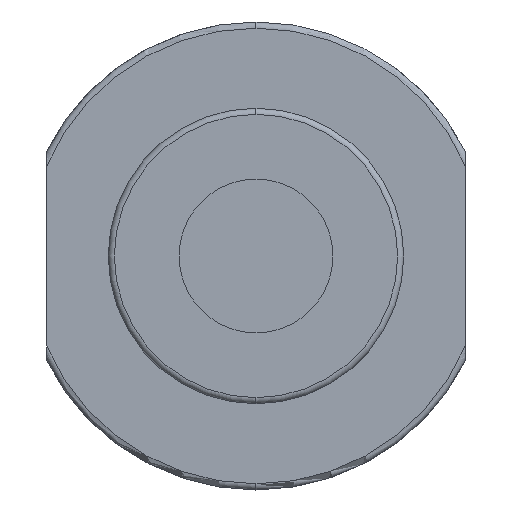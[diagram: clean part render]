
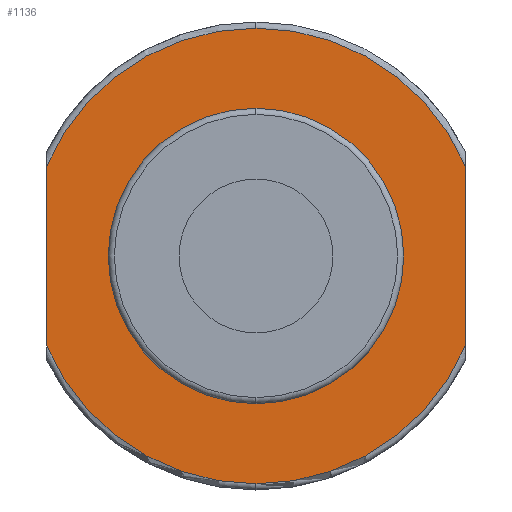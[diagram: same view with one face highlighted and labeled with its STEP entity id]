
A CAD part, left-side view. The second image highlights one B-rep face of the part: STEP entity #1136.
In plain terms, the highlighted planar face has unit normal (-1, 0, 0).
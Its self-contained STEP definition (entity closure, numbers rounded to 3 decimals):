
#14 = VERTEX_POINT ( 'NONE', #1375 ) ;
#36 = EDGE_CURVE ( 'NONE', #14, #1832, #767, .T. ) ;
#96 = ORIENTED_EDGE ( 'NONE', *, *, #1666, .T. ) ;
#104 = CIRCLE ( 'NONE', #1697, 12. ) ;
#114 = DIRECTION ( 'NONE',  ( 1., 0., 0. ) ) ;
#147 = AXIS2_PLACEMENT_3D ( 'NONE', #1527, #915, #650 ) ;
#148 = VECTOR ( 'NONE', #746, 1000. ) ;
#194 = CARTESIAN_POINT ( 'NONE',  ( 25.5, 0., 18.5 ) ) ;
#200 = EDGE_CURVE ( 'NONE', #1600, #565, #282, .T. ) ;
#226 = ORIENTED_EDGE ( 'NONE', *, *, #1286, .F. ) ;
#258 = CIRCLE ( 'NONE', #147, 12. ) ;
#270 = ORIENTED_EDGE ( 'NONE', *, *, #1165, .T. ) ;
#282 = CIRCLE ( 'NONE', #1710, 18.5 ) ;
#334 = FACE_OUTER_BOUND ( 'NONE', #754, .T. ) ;
#359 = DIRECTION ( 'NONE',  ( 0., 1., 0. ) ) ;
#395 = PLANE ( 'NONE',  #976 ) ;
#399 = DIRECTION ( 'NONE',  ( 0., 0., 1. ) ) ;
#415 = DIRECTION ( 'NONE',  ( -1., 0., 0. ) ) ;
#421 = CARTESIAN_POINT ( 'NONE',  ( 25.5, 0., 0. ) ) ;
#424 = CARTESIAN_POINT ( 'NONE',  ( 25.5, -12., 0. ) ) ;
#454 = CARTESIAN_POINT ( 'NONE',  ( 25.5, 12., 0. ) ) ;
#456 = DIRECTION ( 'NONE',  ( 0., 1., 0. ) ) ;
#460 = CARTESIAN_POINT ( 'NONE',  ( 25.5, 0., 0. ) ) ;
#469 = VERTEX_POINT ( 'NONE', #454 ) ;
#490 = DIRECTION ( 'NONE',  ( 0., 1., 0. ) ) ;
#526 = VECTOR ( 'NONE', #852, 1000. ) ;
#541 = CARTESIAN_POINT ( 'NONE',  ( 25.5, 0., 0. ) ) ;
#548 = EDGE_CURVE ( 'NONE', #1080, #973, #664, .T. ) ;
#565 = VERTEX_POINT ( 'NONE', #760 ) ;
#602 = ORIENTED_EDGE ( 'NONE', *, *, #200, .F. ) ;
#621 = CARTESIAN_POINT ( 'NONE',  ( 25.5, 17., 0. ) ) ;
#650 = DIRECTION ( 'NONE',  ( 0., 1., 0. ) ) ;
#664 = LINE ( 'NONE', #621, #148 ) ;
#685 = FACE_BOUND ( 'NONE', #819, .T. ) ;
#746 = DIRECTION ( 'NONE',  ( 0., 0., -1. ) ) ;
#754 = EDGE_LOOP ( 'NONE', ( #1810, #602, #1338, #1814, #226, #1250 ) ) ;
#760 = CARTESIAN_POINT ( 'NONE',  ( 25.5, -17., 7.297 ) ) ;
#767 = CIRCLE ( 'NONE', #961, 18.5 ) ;
#812 = CARTESIAN_POINT ( 'NONE',  ( 25.5, 0., -18.5 ) ) ;
#818 = CARTESIAN_POINT ( 'NONE',  ( 25.5, 17., 7.297 ) ) ;
#819 = EDGE_LOOP ( 'NONE', ( #270, #96 ) ) ;
#852 = DIRECTION ( 'NONE',  ( 0., 0., 1. ) ) ;
#911 = LINE ( 'NONE', #1612, #526 ) ;
#915 = DIRECTION ( 'NONE',  ( 1., 0., 0. ) ) ;
#926 = VERTEX_POINT ( 'NONE', #424 ) ;
#930 = CIRCLE ( 'NONE', #1109, 18.5 ) ;
#961 = AXIS2_PLACEMENT_3D ( 'NONE', #1655, #1057, #490 ) ;
#973 = VERTEX_POINT ( 'NONE', #1255 ) ;
#976 = AXIS2_PLACEMENT_3D ( 'NONE', #1863, #415, #399 ) ;
#1027 = EDGE_CURVE ( 'NONE', #1080, #1600, #930, .T. ) ;
#1057 = DIRECTION ( 'NONE',  ( 1., 0., 0. ) ) ;
#1080 = VERTEX_POINT ( 'NONE', #818 ) ;
#1092 = DIRECTION ( 'NONE',  ( 1., 0., 0. ) ) ;
#1109 = AXIS2_PLACEMENT_3D ( 'NONE', #1232, #1092, #359 ) ;
#1117 = CIRCLE ( 'NONE', #1585, 18.5 ) ;
#1136 = ADVANCED_FACE ( 'NONE', ( #334, #685 ), #395, .T. ) ;
#1165 = EDGE_CURVE ( 'NONE', #469, #926, #104, .T. ) ;
#1232 = CARTESIAN_POINT ( 'NONE',  ( 25.5, 0., 0. ) ) ;
#1250 = ORIENTED_EDGE ( 'NONE', *, *, #36, .F. ) ;
#1255 = CARTESIAN_POINT ( 'NONE',  ( 25.5, 17., -7.297 ) ) ;
#1286 = EDGE_CURVE ( 'NONE', #1832, #973, #1117, .T. ) ;
#1338 = ORIENTED_EDGE ( 'NONE', *, *, #1027, .F. ) ;
#1375 = CARTESIAN_POINT ( 'NONE',  ( 25.5, -17., -7.297 ) ) ;
#1455 = DIRECTION ( 'NONE',  ( 0., 1., 0. ) ) ;
#1485 = DIRECTION ( 'NONE',  ( 1., 0., 0. ) ) ;
#1509 = EDGE_CURVE ( 'NONE', #14, #565, #911, .T. ) ;
#1527 = CARTESIAN_POINT ( 'NONE',  ( 25.5, 0., 0. ) ) ;
#1585 = AXIS2_PLACEMENT_3D ( 'NONE', #460, #1485, #456 ) ;
#1600 = VERTEX_POINT ( 'NONE', #194 ) ;
#1612 = CARTESIAN_POINT ( 'NONE',  ( 25.5, -17., 0. ) ) ;
#1655 = CARTESIAN_POINT ( 'NONE',  ( 25.5, 0., 0. ) ) ;
#1666 = EDGE_CURVE ( 'NONE', #926, #469, #258, .T. ) ;
#1697 = AXIS2_PLACEMENT_3D ( 'NONE', #421, #1754, #1455 ) ;
#1710 = AXIS2_PLACEMENT_3D ( 'NONE', #541, #114, #1831 ) ;
#1754 = DIRECTION ( 'NONE',  ( 1., 0., 0. ) ) ;
#1810 = ORIENTED_EDGE ( 'NONE', *, *, #1509, .T. ) ;
#1814 = ORIENTED_EDGE ( 'NONE', *, *, #548, .T. ) ;
#1831 = DIRECTION ( 'NONE',  ( 0., 1., 0. ) ) ;
#1832 = VERTEX_POINT ( 'NONE', #812 ) ;
#1863 = CARTESIAN_POINT ( 'NONE',  ( 25.5, 15.25, 0. ) ) ;
